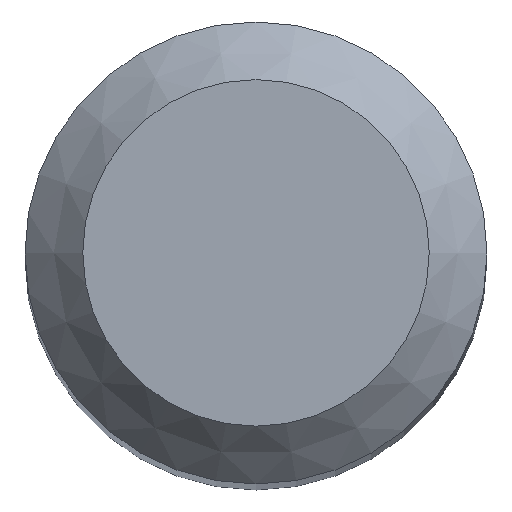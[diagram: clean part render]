
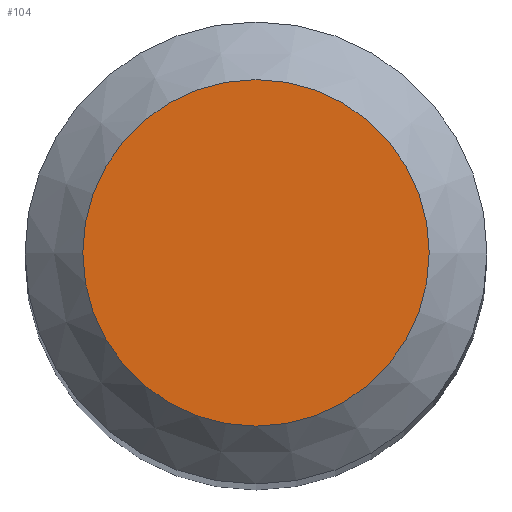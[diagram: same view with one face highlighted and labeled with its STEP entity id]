
A CAD part, top view. The second image highlights one B-rep face of the part: STEP entity #104.
In plain terms, the highlighted planar face has unit normal (0, 0, 1).
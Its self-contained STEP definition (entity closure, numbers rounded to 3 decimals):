
#88=CARTESIAN_POINT('',(1.5,0.0,55.0));
#89=DIRECTION('',(0.0,0.0,1.0));
#90=DIRECTION('',(1.0,0.0,0.0));
#91=AXIS2_PLACEMENT_3D('',#88,#89,#90);
#92=PLANE('',#91);
#93=CARTESIAN_POINT('',(-1.5,0.0,55.0));
#94=VERTEX_POINT('',#93);
#95=CARTESIAN_POINT('',(0.0,0.0,55.0));
#96=DIRECTION('',(0.0,0.0,-1.0));
#97=DIRECTION('',(-1.0,0.0,0.0));
#98=AXIS2_PLACEMENT_3D('',#95,#96,#97);
#99=CIRCLE('',#98,1.5);
#100=EDGE_CURVE('',#94,#94,#99,.T.);
#101=ORIENTED_EDGE('',*,*,#100,.F.);
#102=EDGE_LOOP('',(#101));
#103=FACE_OUTER_BOUND('',#102,.T.);
#104=ADVANCED_FACE('',(#103),#92,.T.);
